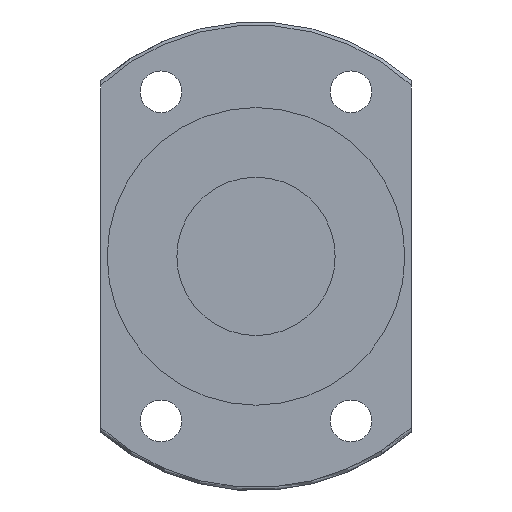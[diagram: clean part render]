
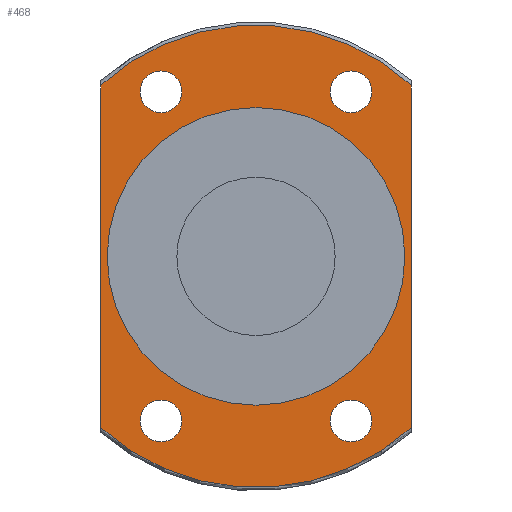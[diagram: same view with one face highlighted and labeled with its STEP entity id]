
A CAD part, left-side view. The second image highlights one B-rep face of the part: STEP entity #468.
In plain terms, the highlighted planar face has unit normal (-1, 0, 0).
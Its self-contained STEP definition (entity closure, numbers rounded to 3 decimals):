
#62=PLANE('',#533);
#88=LINE('',#749,#96);
#90=LINE('',#782,#98);
#96=VECTOR('',#578,1000.);
#98=VECTOR('',#582,1000.);
#161=ORIENTED_EDGE('',*,*,#247,.F.);
#162=ORIENTED_EDGE('',*,*,#222,.F.);
#163=ORIENTED_EDGE('',*,*,#245,.F.);
#164=ORIENTED_EDGE('',*,*,#229,.T.);
#165=ORIENTED_EDGE('',*,*,#241,.F.);
#166=ORIENTED_EDGE('',*,*,#239,.F.);
#167=ORIENTED_EDGE('',*,*,#237,.F.);
#168=ORIENTED_EDGE('',*,*,#235,.F.);
#169=ORIENTED_EDGE('',*,*,#233,.F.);
#222=EDGE_CURVE('',#277,#278,#88,.T.);
#229=EDGE_CURVE('',#283,#282,#90,.T.);
#233=EDGE_CURVE('',#286,#286,#310,.T.);
#235=EDGE_CURVE('',#288,#288,#312,.T.);
#237=EDGE_CURVE('',#290,#290,#314,.T.);
#239=EDGE_CURVE('',#292,#292,#316,.T.);
#241=EDGE_CURVE('',#278,#282,#318,.T.);
#245=EDGE_CURVE('',#283,#277,#322,.T.);
#247=EDGE_CURVE('',#294,#294,#324,.T.);
#277=VERTEX_POINT('',#748);
#278=VERTEX_POINT('',#750);
#282=VERTEX_POINT('',#781);
#283=VERTEX_POINT('',#783);
#286=VERTEX_POINT('',#795);
#288=VERTEX_POINT('',#800);
#290=VERTEX_POINT('',#805);
#292=VERTEX_POINT('',#810);
#294=VERTEX_POINT('',#827);
#310=CIRCLE('',#510,3.3);
#312=CIRCLE('',#513,3.3);
#314=CIRCLE('',#516,3.3);
#316=CIRCLE('',#519,3.3);
#318=CIRCLE('',#523,36.5);
#322=CIRCLE('',#530,36.5);
#324=CIRCLE('',#534,23.5);
#359=EDGE_LOOP('',(#161));
#360=EDGE_LOOP('',(#162,#163,#164,#165));
#361=EDGE_LOOP('',(#166));
#362=EDGE_LOOP('',(#167));
#363=EDGE_LOOP('',(#168));
#364=EDGE_LOOP('',(#169));
#412=FACE_BOUND('',#359,.T.);
#413=FACE_BOUND('',#360,.T.);
#414=FACE_BOUND('',#361,.T.);
#415=FACE_BOUND('',#362,.T.);
#416=FACE_BOUND('',#363,.T.);
#417=FACE_BOUND('',#364,.T.);
#468=ADVANCED_FACE('',(#412,#413,#414,#415,#416,#417),#62,.T.);
#510=AXIS2_PLACEMENT_3D('',#794,#588,#589);
#513=AXIS2_PLACEMENT_3D('',#799,#594,#595);
#516=AXIS2_PLACEMENT_3D('',#804,#600,#601);
#519=AXIS2_PLACEMENT_3D('',#809,#606,#607);
#523=AXIS2_PLACEMENT_3D('',#814,#614,#615);
#530=AXIS2_PLACEMENT_3D('',#821,#628,#629);
#533=AXIS2_PLACEMENT_3D('',#825,#634,#635);
#534=AXIS2_PLACEMENT_3D('',#826,#636,#637);
#578=DIRECTION('',(0.,0.,1.));
#582=DIRECTION('',(0.,0.,1.));
#588=DIRECTION('',(-1.,0.,0.));
#589=DIRECTION('',(0.,-1.,0.));
#594=DIRECTION('',(-1.,0.,0.));
#595=DIRECTION('',(0.,-1.,0.));
#600=DIRECTION('',(-1.,0.,0.));
#601=DIRECTION('',(0.,-1.,0.));
#606=DIRECTION('',(-1.,0.,0.));
#607=DIRECTION('',(0.,-1.,0.));
#614=DIRECTION('',(1.,0.,0.));
#615=DIRECTION('',(0.,1.,0.));
#628=DIRECTION('',(1.,0.,0.));
#629=DIRECTION('',(0.,1.,0.));
#634=DIRECTION('',(-1.,0.,0.));
#635=DIRECTION('',(0.,-1.,0.));
#636=DIRECTION('',(-1.,0.,0.));
#637=DIRECTION('',(0.,-1.,0.));
#748=CARTESIAN_POINT('',(-89.,24.5,-27.055));
#749=CARTESIAN_POINT('',(-89.,24.5,0.));
#750=CARTESIAN_POINT('',(-89.,24.5,27.055));
#781=CARTESIAN_POINT('',(-89.,-24.5,27.055));
#782=CARTESIAN_POINT('',(-89.,-24.5,0.));
#783=CARTESIAN_POINT('',(-89.,-24.5,-27.055));
#794=CARTESIAN_POINT('',(-89.,15.,-25.98));
#795=CARTESIAN_POINT('',(-89.,11.7,-25.98));
#799=CARTESIAN_POINT('',(-89.,-15.,-25.98));
#800=CARTESIAN_POINT('',(-89.,-18.3,-25.98));
#804=CARTESIAN_POINT('',(-89.,-15.,25.98));
#805=CARTESIAN_POINT('',(-89.,-18.3,25.98));
#809=CARTESIAN_POINT('',(-89.,15.,25.98));
#810=CARTESIAN_POINT('',(-89.,11.7,25.98));
#814=CARTESIAN_POINT('',(-89.,0.,0.));
#821=CARTESIAN_POINT('',(-89.,0.,0.));
#825=CARTESIAN_POINT('',(-89.,36.5,0.));
#826=CARTESIAN_POINT('',(-89.,0.,0.));
#827=CARTESIAN_POINT('',(-89.,-23.5,0.));
